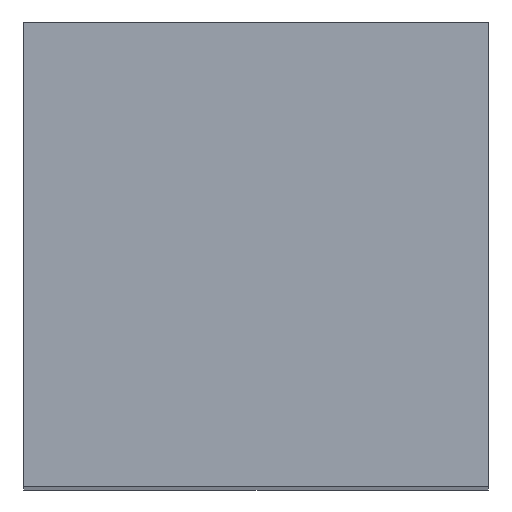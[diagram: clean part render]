
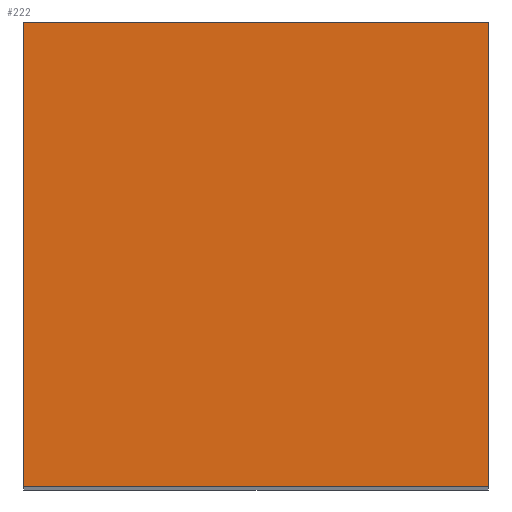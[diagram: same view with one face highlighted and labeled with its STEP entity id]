
A CAD part, top view. The second image highlights one B-rep face of the part: STEP entity #222.
In plain terms, the highlighted planar face has unit normal (0, 0, 1).
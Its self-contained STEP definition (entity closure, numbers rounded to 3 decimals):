
#36=PLANE('',#266);
#54=FACE_OUTER_BOUND('',#72,.T.);
#72=EDGE_LOOP('',(#182,#183,#184,#185));
#82=LINE('',#378,#98);
#83=LINE('',#380,#99);
#84=LINE('',#382,#100);
#85=LINE('',#383,#101);
#98=VECTOR('',#320,10.);
#99=VECTOR('',#321,10.);
#100=VECTOR('',#322,10.);
#101=VECTOR('',#323,10.);
#126=VERTEX_POINT('',#376);
#127=VERTEX_POINT('',#377);
#128=VERTEX_POINT('',#379);
#129=VERTEX_POINT('',#381);
#146=EDGE_CURVE('',#126,#127,#82,.T.);
#147=EDGE_CURVE('',#127,#128,#83,.T.);
#148=EDGE_CURVE('',#128,#129,#84,.T.);
#149=EDGE_CURVE('',#129,#126,#85,.T.);
#182=ORIENTED_EDGE('',*,*,#146,.T.);
#183=ORIENTED_EDGE('',*,*,#147,.T.);
#184=ORIENTED_EDGE('',*,*,#148,.T.);
#185=ORIENTED_EDGE('',*,*,#149,.T.);
#222=ADVANCED_FACE('',(#54),#36,.T.);
#266=AXIS2_PLACEMENT_3D('',#375,#318,#319);
#318=DIRECTION('center_axis',(0.,0.,1.));
#319=DIRECTION('ref_axis',(1.,0.,0.));
#320=DIRECTION('',(1.,0.,0.));
#321=DIRECTION('',(0.,1.,0.));
#322=DIRECTION('',(-1.,0.,0.));
#323=DIRECTION('',(0.,-1.,0.));
#375=CARTESIAN_POINT('Origin',(55.,-55.,465.));
#376=CARTESIAN_POINT('',(0.,-110.,465.));
#377=CARTESIAN_POINT('',(110.,-110.,465.));
#378=CARTESIAN_POINT('',(110.,-110.,465.));
#379=CARTESIAN_POINT('',(110.,0.,465.));
#380=CARTESIAN_POINT('',(110.,0.,465.));
#381=CARTESIAN_POINT('',(0.,0.,465.));
#382=CARTESIAN_POINT('',(0.,0.,465.));
#383=CARTESIAN_POINT('',(0.,-110.,465.));
